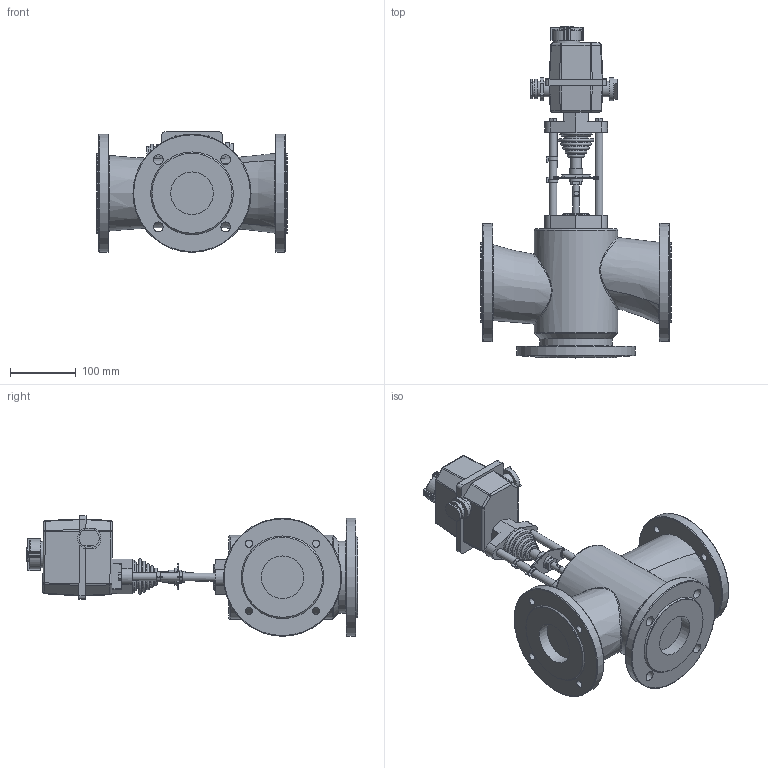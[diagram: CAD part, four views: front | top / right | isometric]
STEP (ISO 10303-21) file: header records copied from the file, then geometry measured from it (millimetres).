
FILE_DESCRIPTION(/* description */ (''),/* implementation_level */ '2;1');
FILE_NAME(/* name */ 'D:\Работа\work by\2017.01.17. клапаны для КПСР 3-хходоввые\Готовые файлы\ST 0\ду 65-1.stp',/* time_stamp */ '2017-02-19T16:17:44+03:00',/* author */ ('Admin'),/* organization */ ('unknown'),/* preprocessor_version */ 'ST-DEVELOPER v16.1',/* originating_system */ 'Autodesk Inventor 2016',/* authorisation */ '');
FILE_SCHEMA (('AUTOMOTIVE_DESIGN { 1 0 10303 214 3 1 1 }'));
Length unit declared in the file: millimetre
Products named in the file (1): ду 65-1
Bounding box: 290 x 506.06 x 183.8 mm (x, y, z)
Volume: 5890645.3 mm3; surface area: 400288.1 mm2
Topology: 1 solids, 3 shells, 407 faces, 1019 edges, 654 vertices
Faces by surface type: plane 204, cylinder 137, torus 33, sphere 16, cone 9, bspline 8
Full cylindrical faces by diameter (mm): 8.5 x1, 9.6 x1, 10 x1, 11 x8, 12 x4, 15 x4, 16 x1, 20 x3, 22.287 x1, 22.5 x1, 24 x4, 24.3 x1, 25 x1, 29.215 x1, 30.24 x1, 35 x2, 36 x1, 36.144 x1, 40 x3, 43.072 x1, 44 x1, 50 x1, 65 x3, 110.2 x1, 122 x3, 127.6 x1, 180 x3
Entity records: 13200 total; most frequent: CARTESIAN_POINT 3680, DIRECTION 2022, ORIENTED_EDGE 1818, EDGE_CURVE 909, AXIS2_PLACEMENT_3D 768, VERTEX_POINT 627, EDGE_LOOP 564, LINE 486
